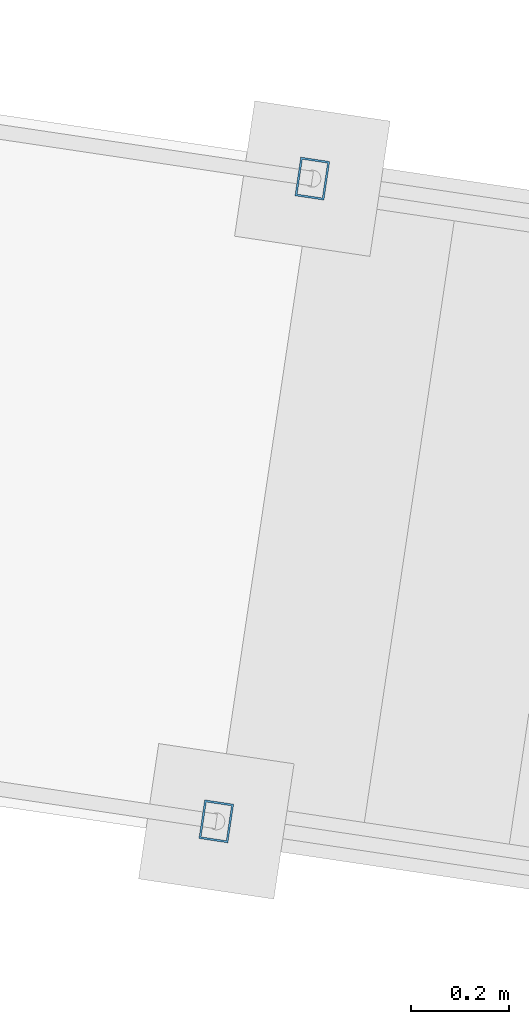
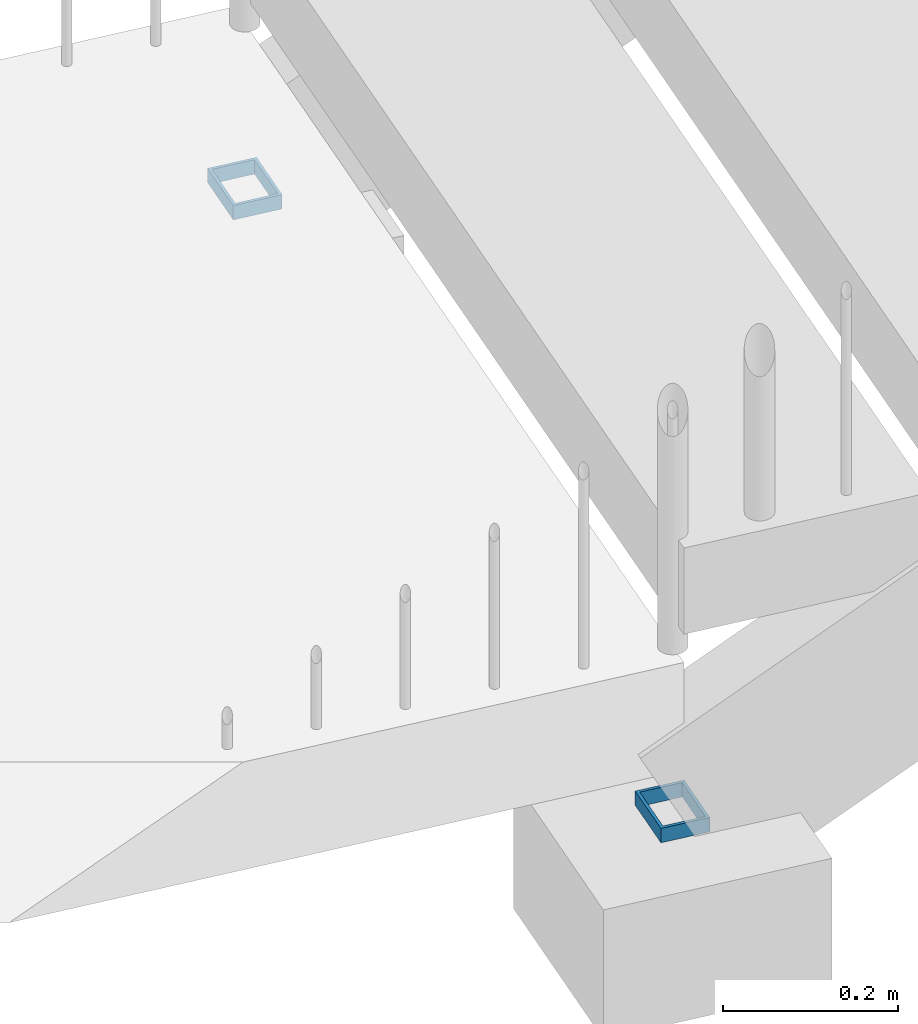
# One storey, part 5 of 131: 2 columns, 1 element without a shape of its own.
"""IFC4 building model written with IfcOpenShell, lengths in metres."""

from ifc_helpers import new_model, si_unit, direction, frame, origin_with_axes, place, context, subcontext, project, spatial, hollow_rectangle, extrude, material, material_profile, profile_set, profile_usage, type_object, element, aggregate, save


model = new_model("IFC4")

# Units and contexts
model_context = context("Model", 3, precision=1e-05, world=origin_with_axes(), true_north=direction((0.0, 1.0)))
body_context = subcontext(model_context, "Body", "Model", "MODEL_VIEW")
ifc_project = project(units=[si_unit("VOLUMEUNIT", "CUBIC_METRE"), si_unit("LENGTHUNIT", "METRE"), si_unit("AREAUNIT", "SQUARE_METRE")], contexts=[model_context])

# Site, building, storey
site_placement = place(None, origin_with_axes())
site = spatial("IfcSite", under=ifc_project, at=site_placement, Name="Lares · Rua das Mercês · artigo 4771")
building_placement = place(site_placement, frame((15.0, 9.7, 14.65), z_axis=(0.0, 0.0, 1.0), x_axis=(0.989015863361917, -0.147809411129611, 0.0)))
building = spatial("IfcBuilding", under=site, at=building_placement, Name="Casa Sobreposta")
storey_placement = place(building_placement, origin_with_axes())
storey = spatial("IfcBuildingStorey", under=building, at=storey_placement, Name="00 · Habitação e estacionamento", Elevation=14.65)

# Stair, columns
stair_placement = place(storey_placement, origin_with_axes())
stair = element("IfcStair", 1, at=stair_placement, inside=storey, Name="Jardim · escada pela fachada poente", PredefinedType="STRAIGHT_RUN_STAIR")
ifc_material = material(Name="Aço pintado / Stahl lackiert", Category="steel")
ifc_material_profile = material_profile(ifc_material, hollow_rectangle(XDim=0.06, YDim=0.08, WallThickness=0.004))
ifc_profile_set = profile_set([ifc_material_profile], Name="RHS80x60x4")
ifc_profile_usage_1 = profile_usage(ifc_profile_set)
column_type = type_object("IfcColumnType", Name="RHS80x60x4 / steel", PredefinedType="NOTDEFINED", material=ifc_profile_set)
column_1_placement = place(stair_placement, frame((-9.55, 0.435, -2.19), z_axis=(0.0, 0.0, 1.0), x_axis=(1.0, 0.0, 0.0)))
column_1 = element("IfcColumn", 2, at=column_1_placement, type_object=column_type, material=ifc_profile_usage_1, Name="Jardim · montante", context=body_context, shape_type="SweptSolid", body=[
    extrude(hollow_rectangle(XDim=0.06, YDim=0.08, WallThickness=0.004), origin_with_axes(), (0.0, 0.0, 1.0), 0.02),
])
ifc_profile_usage_2 = profile_usage(ifc_profile_set)
column_2_placement = place(stair_placement, frame((-9.55, 1.765, -2.19), z_axis=(0.0, 0.0, 1.0), x_axis=(1.0, 0.0, 0.0)))
column_2 = element("IfcColumn", 3, at=column_2_placement, type_object=column_type, material=ifc_profile_usage_2, Name="Jardim · montante", context=body_context, shape_type="SweptSolid", body=[
    extrude(hollow_rectangle(XDim=0.06, YDim=0.08, WallThickness=0.004), origin_with_axes(), (0.0, 0.0, 1.0), 0.02),
])
aggregate(stair, [column_1, column_2])

save(model, "model.ifc")
